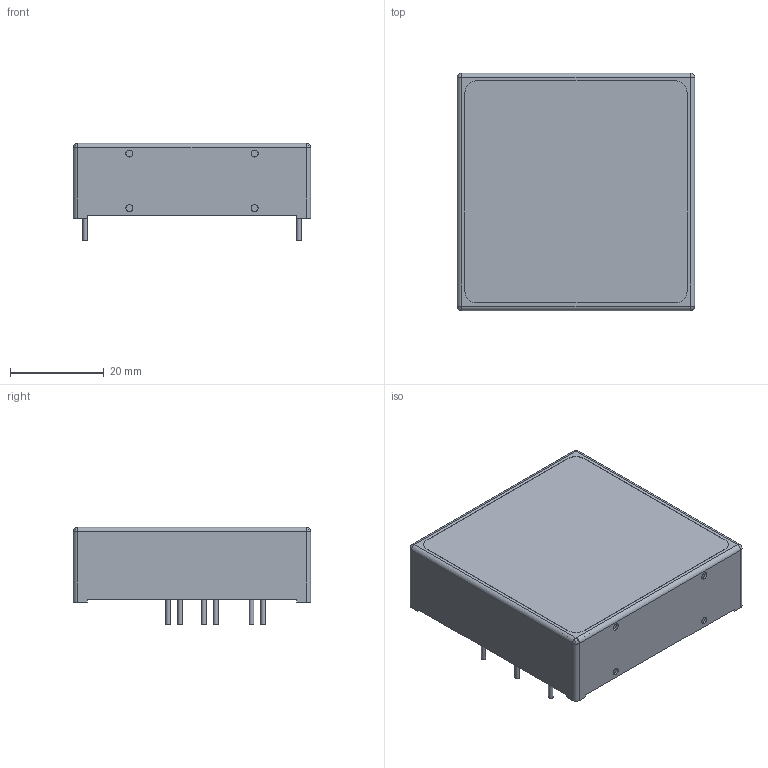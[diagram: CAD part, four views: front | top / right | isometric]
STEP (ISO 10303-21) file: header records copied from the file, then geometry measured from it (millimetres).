
FILE_DESCRIPTION((''),'2;1');
FILE_NAME('W:\mechanical\機構工程圖\3D圖檔\3D Outline-2020\已完成待審核\SDM30.stp','2020-07-31T17:50:19',('shirley'),(''),'Autodesk Inventor 2010','Autodesk Inventor 2010','');
FILE_SCHEMA(('AUTOMOTIVE_DESIGN { 1 0 10303 214 1 1 1 1 }'));
Length unit declared in the file: millimetre
Products named in the file (4): SDM30; SDM30-Case; 1HH1; PIN
Assembly tree (8 placements, depth 2):
  SDM30
    SDM30-Case
    1HH1
    PIN  x6
Bounding box: 50.8 x 50.8 x 20.86 mm (x, y, z)
Volume: 3380.4 mm3; surface area: 16221.5 mm2
Topology: 12 solids, 12 shells, 117 faces, 240 edges, 148 vertices
Faces by surface type: plane 65, cylinder 40, torus 8, sphere 4
Full cylindrical faces by diameter (mm): 1 x12, 1.5 x16
Entity records: 2804 total; most frequent: DIRECTION 496, CARTESIAN_POINT 438, ORIENTED_EDGE 372, AXIS2_PLACEMENT_3D 192, EDGE_CURVE 186, EDGE_LOOP 162, VERTEX_POINT 130, VECTOR 112
